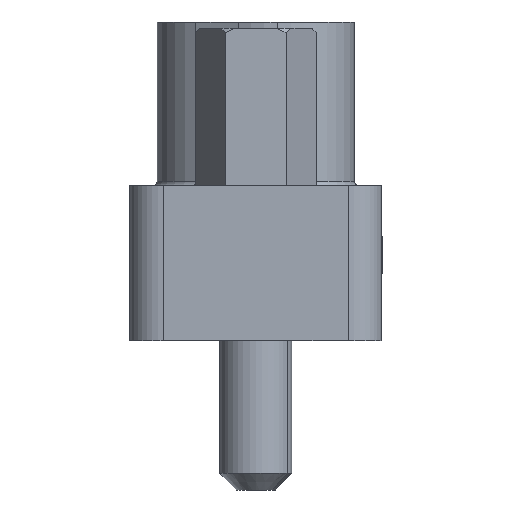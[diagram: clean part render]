
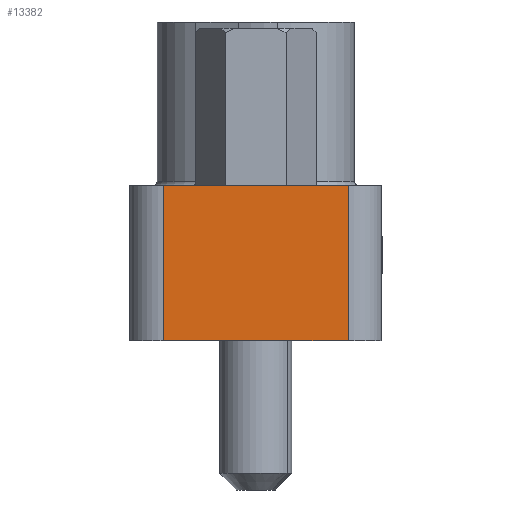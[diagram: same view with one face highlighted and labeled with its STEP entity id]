
A CAD part, left-side view. The second image highlights one B-rep face of the part: STEP entity #13382.
In plain terms, the highlighted planar face has unit normal (-1, 0, 0).
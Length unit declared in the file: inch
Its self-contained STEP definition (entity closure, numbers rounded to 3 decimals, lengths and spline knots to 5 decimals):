
#2749 = CARTESIAN_POINT ( 'NONE',  ( -0.5875, 0.11, 0.04 ) ) ;
#2751 = CARTESIAN_POINT ( 'NONE',  ( -0.5875, -0.11, -0.145 ) ) ;
#2753 = CARTESIAN_POINT ( 'NONE',  ( -0.5875, -0.11, 0.04 ) ) ;
#2754 = DIRECTION ( 'NONE',  ( 0., 0., -1. ) ) ;
#2755 = CARTESIAN_POINT ( 'NONE',  ( -0.5875, -0.11, 0.04 ) ) ;
#2756 = DIRECTION ( 'NONE',  ( 0., 1., 0. ) ) ;
#2757 = DIRECTION ( 'NONE',  ( 0., 0., -1. ) ) ;
#2759 = DIRECTION ( 'NONE',  ( 0., 1., 0. ) ) ;
#9597 = CARTESIAN_POINT ( 'NONE',  ( -0.5875, 0.11, 0.04 ) ) ;
#9599 = CARTESIAN_POINT ( 'NONE',  ( -0.5875, -0.11, -0.145 ) ) ;
#9600 = CARTESIAN_POINT ( 'NONE',  ( -0.5875, 0.11, -0.145 ) ) ;
#9602 = CARTESIAN_POINT ( 'NONE',  ( -0.5875, -0.11, 0.04 ) ) ;
#13382 = ADVANCED_FACE ( 'NONE', ( #25113 ), #29446, .T. ) ;
#15015 = EDGE_LOOP ( 'NONE', ( #15688, #15689, #15690, #15691 ) ) ;
#15688 = ORIENTED_EDGE ( 'NONE', *, *, #21544, .T. ) ;
#15689 = ORIENTED_EDGE ( 'NONE', *, *, #21545, .F. ) ;
#15690 = ORIENTED_EDGE ( 'NONE', *, *, #21546, .F. ) ;
#15691 = ORIENTED_EDGE ( 'NONE', *, *, #21547, .T. ) ;
#21544 = EDGE_CURVE ( 'NONE', #23822, #23825, #35003, .T. ) ;
#21545 = EDGE_CURVE ( 'NONE', #23824, #23825, #35005, .T. ) ;
#21546 = EDGE_CURVE ( 'NONE', #23827, #23824, #35007, .T. ) ;
#21547 = EDGE_CURVE ( 'NONE', #23827, #23822, #35009, .T. ) ;
#23822 = VERTEX_POINT ( 'NONE', #9597 ) ;
#23824 = VERTEX_POINT ( 'NONE', #9599 ) ;
#23825 = VERTEX_POINT ( 'NONE', #9600 ) ;
#23827 = VERTEX_POINT ( 'NONE', #9602 ) ;
#25113 = FACE_OUTER_BOUND ( 'NONE', #15015, .T. ) ;
#26943 = AXIS2_PLACEMENT_3D ( 'NONE', #29444, #29448, #29449 ) ;
#29444 = CARTESIAN_POINT ( 'NONE',  ( -0.5875, -0.11, 0.04 ) ) ;
#29446 = PLANE ( 'NONE',  #26943 ) ;
#29448 = DIRECTION ( 'NONE',  ( -1., 0., 0. ) ) ;
#29449 = DIRECTION ( 'NONE',  ( 0., 0., 1. ) ) ;
#35003 = LINE ( 'NONE', #2749, #35008 ) ;
#35005 = LINE ( 'NONE', #2751, #35010 ) ;
#35007 = LINE ( 'NONE', #2753, #35012 ) ;
#35008 = VECTOR ( 'NONE', #2754, 39.37008 ) ;
#35009 = LINE ( 'NONE', #2755, #35014 ) ;
#35010 = VECTOR ( 'NONE', #2756, 39.37008 ) ;
#35012 = VECTOR ( 'NONE', #2757, 39.37008 ) ;
#35014 = VECTOR ( 'NONE', #2759, 39.37008 ) ;
